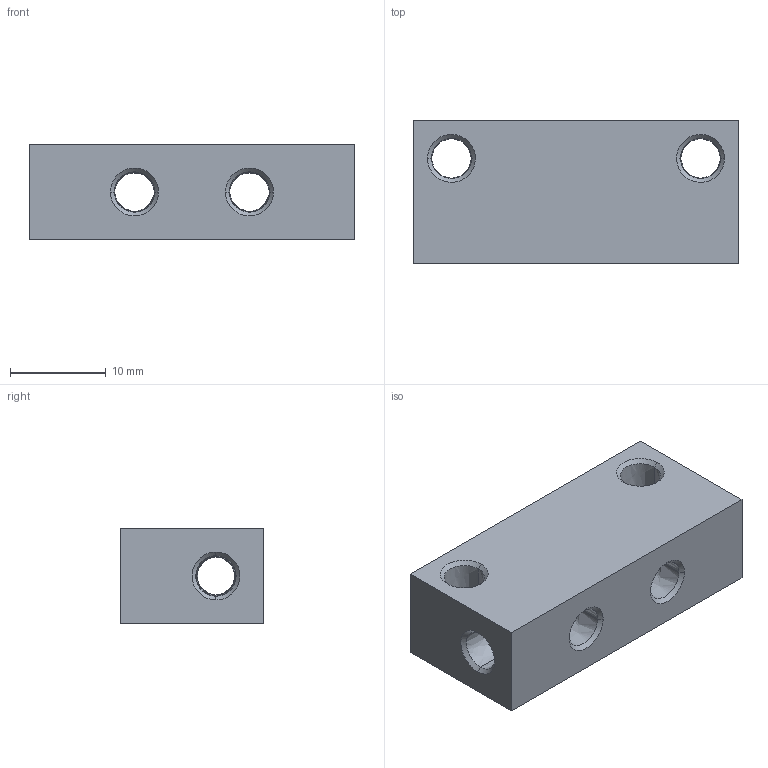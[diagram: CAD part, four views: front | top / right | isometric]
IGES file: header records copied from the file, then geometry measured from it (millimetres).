
Start section:  PTC IGES file: 122034_mm_6p.igs
Global section: file name: 122034_mm_6p.igs; native system: Pro/ENGINEER by Parametric Technology Corporation; preprocessor: 2004090; author: KAIHATSU01; organization: Unknown; date: 061017.111737; units: millimetre
Bounding box: 34 x 15 x 10 mm (x, y, z)
Volume: 4045.9 mm3; surface area: 2795 mm2
Topology: 1 solids, 1 shells, 46 faces, 118 edges, 72 vertices
Faces by surface type: bspline 46
